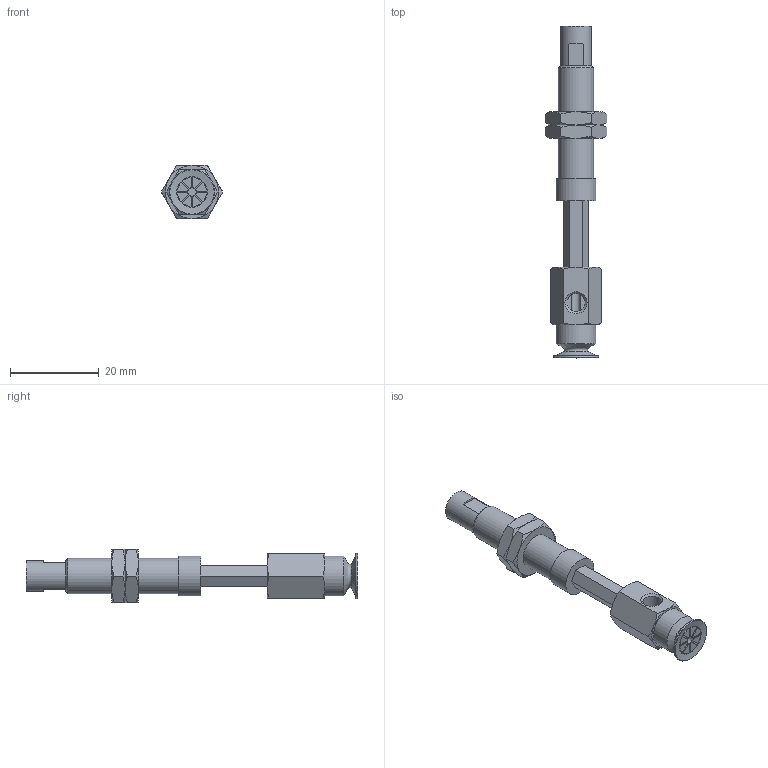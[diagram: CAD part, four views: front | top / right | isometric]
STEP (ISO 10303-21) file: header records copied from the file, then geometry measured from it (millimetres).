
FILE_DESCRIPTION(('STEP AP203'),'1');
FILE_NAME('.stp','2025-03-13T02:59:04',(' '),(' '),'Spatial InterOp 3D',' ',' ');
FILE_SCHEMA(('CONFIG_CONTROL_DESIGN'));
Length unit declared in the file: millimetre
Products named in the file (6): BNABPAYH-10B-15-※; NAPAYH-10B-15--M; NAPAYH-10B-15--F; Nut-10A-S; CONNECTOR-10B-15-PA; BPAG-10B-※
Assembly tree (6 placements, depth 2):
  BNABPAYH-10B-15-※
    NAPAYH-10B-15--M
    NAPAYH-10B-15--F
    Nut-10A-S  x2
    CONNECTOR-10B-15-PA
    BPAG-10B-※
Bounding box: 13.86 x 75 x 12 mm (x, y, z)
Volume: 3958.2 mm3; surface area: 4867 mm2
Topology: 6 solids, 6 shells, 173 faces, 400 edges, 248 vertices
Faces by surface type: plane 87, cone 51, cylinder 24, torus 11
Full cylindrical faces by diameter (mm): 2 x2, 4 x2, 4.134 x2, 5 x1, 6 x2, 7 x2, 7.188 x2, 8 x1, 9 x2
Entity records: 4562 total; most frequent: CARTESIAN_POINT 1023, DIRECTION 678, ORIENTED_EDGE 612, EDGE_CURVE 306, AXIS2_PLACEMENT_3D 269, VERTEX_POINT 212, EDGE_LOOP 206, FACE_OUTER_BOUND 176
